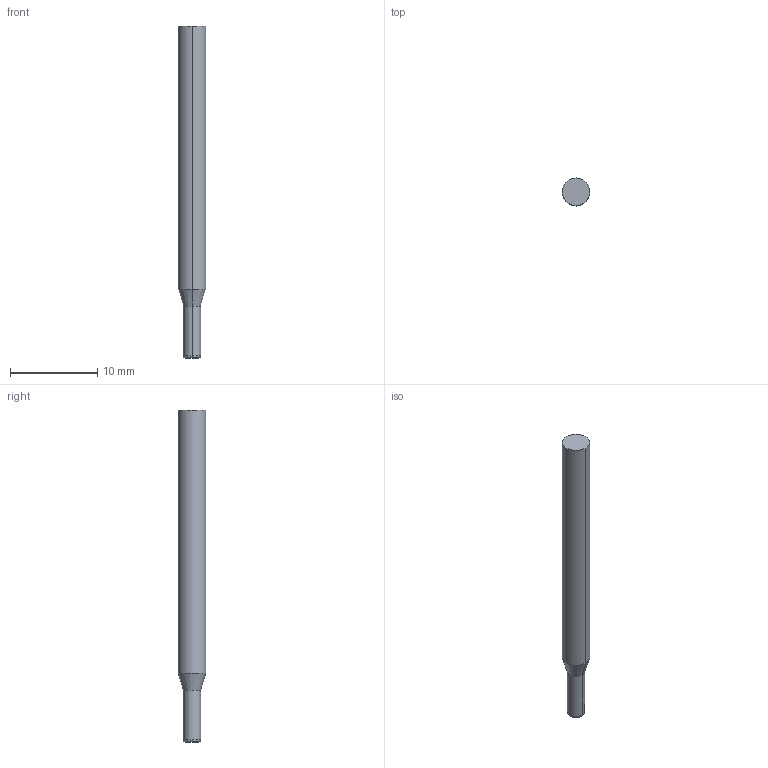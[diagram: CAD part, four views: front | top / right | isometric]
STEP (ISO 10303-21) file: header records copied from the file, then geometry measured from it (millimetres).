
FILE_DESCRIPTION((' '),'2;1');
FILE_NAME( '3MVR0781R.010AH.stp', '2026-01-21T19:05:23', (' '), ('--- Datakit www.datakit.com---'), ' Datakit CrossCadWare V2025.4 Sep 19 2025', 'Mastercam 2027', ' ');
FILE_SCHEMA(('AUTOMOTIVE_DESIGN { 1 0 10303 214 1 1 1 1 }'));
Length unit declared in the file: inch
Products named in the file (1): 3MVR0781R
Bounding box: 3.17 x 3.17 x 38.1 mm (x, y, z)
Volume: 267.8 mm3; surface area: 365.2 mm2
Topology: 1 solids, 1 shells, 10 faces, 18 edges, 10 vertices
Faces by surface type: cylinder 4, plane 2, torus 2, cone 2
Entity records: 318 total; most frequent: DIRECTION 60, CARTESIAN_POINT 43, ORIENTED_EDGE 36, AXIS2_PLACEMENT_3D 27, EDGE_CURVE 18, CIRCLE 12, VERTEX_POINT 10, EDGE_LOOP 10
